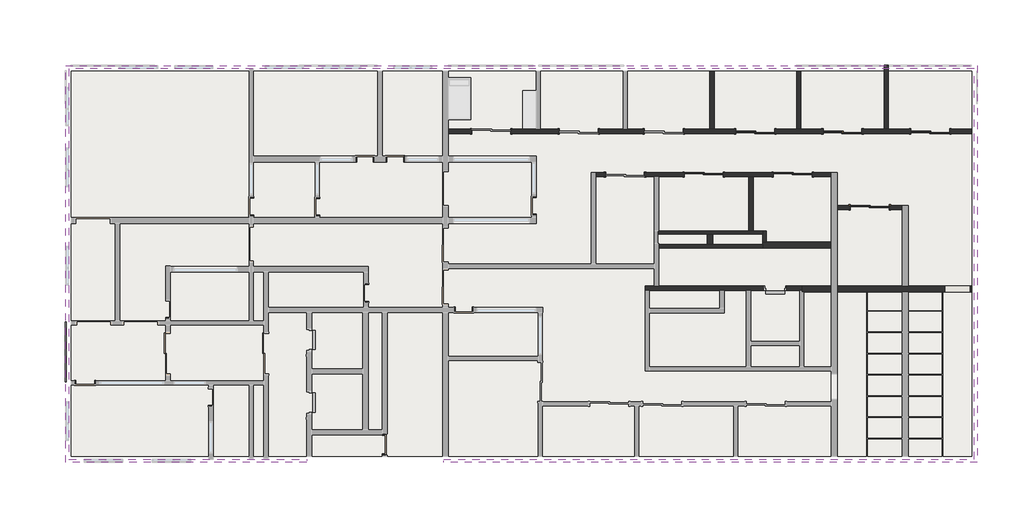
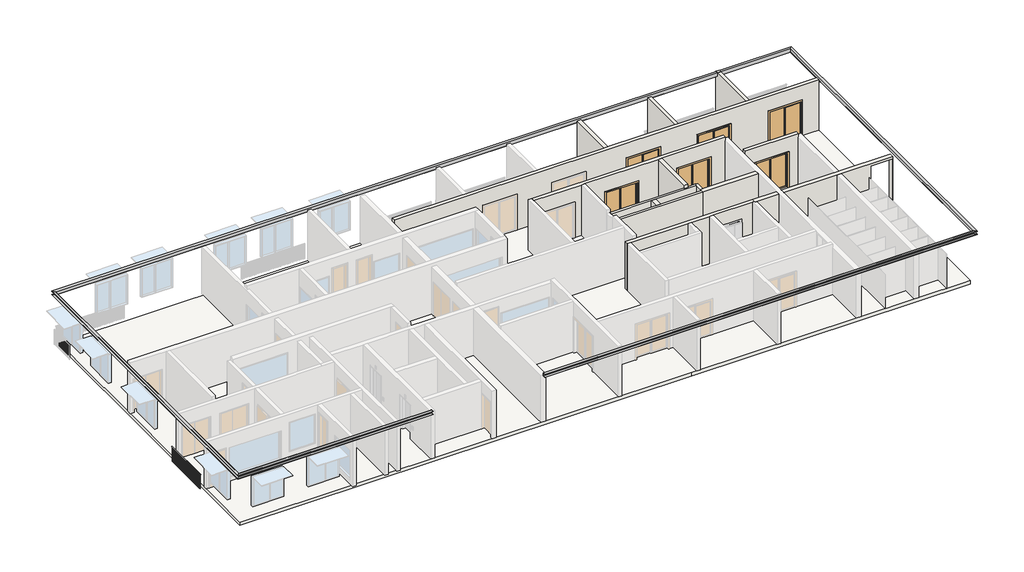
# One storey, part 3 of 5: 14 walls, 6 doors, 1 proxy, 1 railing, 1 slab.
"""IFC4 building model written with IfcOpenShell, lengths in millimetres."""

from ifc_helpers import new_model, si_unit, point, frame, frame_2d, origin, place, context, project, spatial, polyline, circle_curve, ellipse_curve, trimmed, segment, composite_curve, outline, extrude, faceted_brep, transform, mapped, element, save
from ifc_brep_helpers import plane_surface, revolved_surface, advanced_brep
from components import sliding_2_panel_1830_x_2134mm_cc41b145

model = new_model("IFC4")

# Units and contexts
model_context = context("Model", 3, world=origin())
ifc_project = project(units=[si_unit("LENGTHUNIT", "METRE", prefix="MILLI")], contexts=[model_context])

# Site, building, storey
site = spatial("IfcSite", under=ifc_project)
building = spatial("IfcBuilding", under=site)
storey = spatial("IfcBuildingStorey", under=building, Name="3階", Elevation=36100.0)

# Proxy
placement = place(None, origin())
element("IfcBuildingElementProxy", 1, Name="Slab Edge_PFC'", ObjectType="Slab Edge_PFC'", at=placement, inside=storey, context=model_context, shape_type="AdvancedBrep", body=[
    advanced_brep(
    [(45085.0, 189.0898177, 39000.0), (45085.0, 189.0898177, 39200.0), (45085.0, 18560.0, 39200.0), (45085.0, 18560.0, 39000.0), (45235.0, 39.0898177, 39000.0), (45235.0, 18710.0, 39000.0), (45235.0, 39.0898177, 39012.0), (45235.0, 18710.0, 39012.0), (45103.0, 171.0898177, 39012.0), (45103.0, 18578.0, 39012.0), (45091.0, 183.0898177, 39024.0), (45091.0, 18566.0, 39024.0), (45091.0, 183.0898177, 39176.0), (45091.0, 18566.0, 39176.0), (45103.0, 171.0898177, 39188.0), (45103.0, 18578.0, 39188.0), (45235.0, 39.0898177, 39188.0), (45235.0, 18710.0, 39188.0), (45235.0, 39.0898177, 39200.0), (45235.0, 18710.0, 39200.0), (2519.6057353, 18560.0, 39200.0), (2519.6057353, 18560.0, 39000.0), (2369.6057353, 18710.0, 39000.0), (2369.6057353, 18710.0, 39012.0), (2501.6057353, 18578.0, 39012.0), (2513.6057353, 18566.0, 39024.0), (2513.6057353, 18566.0, 39176.0), (2501.6057353, 18578.0, 39188.0), (2369.6057353, 18710.0, 39188.0), (2369.6057353, 18710.0, 39200.0), (13694.6062665, 189.0898177, 39200.0), (13694.6062665, 39.0898177, 39200.0), (13694.6062665, 39.0898177, 39188.0), (13694.6062665, 171.0898177, 39188.0), (13694.6062665, 183.0898177, 39176.0), (13694.6062665, 183.0898177, 39024.0), (13694.6062665, 171.0898177, 39012.0), (13694.6062665, 39.0898177, 39012.0), (13694.6062665, 39.0898177, 39000.0), (13694.6062665, 189.0898177, 39000.0), (2519.6057353, 189.0898177, 39000.0), (2519.6057353, 189.0898177, 39200.0), (2369.6057353, 39.0898177, 39000.0), (2369.6057353, 39.0898177, 39012.0), (2501.6057353, 171.0898177, 39012.0), (2513.6057353, 183.0898177, 39024.0), (2513.6057353, 183.0898177, 39176.0), (2501.6057353, 171.0898177, 39188.0), (2369.6057353, 39.0898177, 39188.0), (2369.6057353, 39.0898177, 39200.0), (20149.3077736, 189.0898177, 39200.0), (20149.3077736, 189.0898177, 39000.0), (20149.3077736, 39.0898177, 39000.0), (20149.3077736, 39.0898177, 39012.0), (20149.3077736, 171.0898177, 39012.0), (20149.3077736, 183.0898177, 39024.0), (20149.3077736, 183.0898177, 39176.0), (20149.3077736, 171.0898177, 39188.0), (20149.3077736, 39.0898177, 39188.0), (20149.3077736, 39.0898177, 39200.0)],
    [
        (0, 1),
        (1, 2),
        (2, 3),
        (3, 0),
        (4, 0),
        (3, 5),
        (5, 4),
        (6, 4),
        (5, 7),
        (7, 6),
        (8, 6),
        (7, 9),
        (9, 8),
        (10, 8, ellipse_curve(frame((45103.0, 171.0898177, 39024.0), z_axis=(-0.7071067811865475, -0.7071067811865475, 0.0), x_axis=(-0.7071067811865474, 0.7071067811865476, 0.0)), 16.9705627, 12.0)),
        (9, 11, ellipse_curve(frame((45103.0, 18578.0, 39024.0), z_axis=(-0.7071067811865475, 0.7071067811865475, 0.0), x_axis=(0.7071067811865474, 0.7071067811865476, 0.0)), 16.9705627, 12.0)),
        (11, 10),
        (12, 10),
        (11, 13),
        (13, 12),
        (14, 12, ellipse_curve(frame((45103.0, 171.0898177, 39176.0), z_axis=(-0.7071067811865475, -0.7071067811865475, 0.0), x_axis=(-0.7071067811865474, 0.7071067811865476, 0.0)), 16.9705627, 12.0)),
        (13, 15, ellipse_curve(frame((45103.0, 18578.0, 39176.0), z_axis=(-0.7071067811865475, 0.7071067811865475, 0.0), x_axis=(0.7071067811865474, 0.7071067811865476, 0.0)), 16.9705627, 12.0)),
        (15, 14),
        (16, 14),
        (15, 17),
        (17, 16),
        (18, 16),
        (17, 19),
        (19, 18),
        (1, 18),
        (19, 2),
        (2, 20),
        (20, 21),
        (21, 3),
        (21, 22),
        (22, 5),
        (22, 23),
        (23, 7),
        (23, 24),
        (24, 9),
        (24, 25, ellipse_curve(frame((2501.6057353, 18578.0, 39024.0), z_axis=(-0.7071067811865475, -0.7071067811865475, 0.0), x_axis=(-0.7071067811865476, 0.7071067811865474, 0.0)), 16.9705627, 12.0)),
        (25, 11),
        (25, 26),
        (26, 13),
        (26, 27, ellipse_curve(frame((2501.6057353, 18578.0, 39176.0), z_axis=(-0.7071067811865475, -0.7071067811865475, 0.0), x_axis=(-0.7071067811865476, 0.7071067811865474, 0.0)), 16.9705627, 12.0)),
        (27, 15),
        (27, 28),
        (28, 17),
        (28, 29),
        (29, 19),
        (29, 20),
        (30, 31),
        (31, 32),
        (32, 33),
        (33, 34, circle_curve(frame((13694.6062665, 171.0898177, 39176.0), z_axis=(-1.0, 0.0, 0.0), x_axis=(0.0, -1.0, 0.0)), 12.0)),
        (34, 35),
        (35, 36, circle_curve(frame((13694.6062665, 171.0898177, 39024.0), z_axis=(-1.0, 0.0, 0.0), x_axis=(0.0, -1.0, 0.0)), 12.0)),
        (36, 37),
        (37, 38),
        (38, 39),
        (39, 30),
        (40, 41),
        (41, 30),
        (39, 40),
        (42, 40),
        (38, 42),
        (43, 42),
        (37, 43),
        (44, 43),
        (36, 44),
        (45, 44, ellipse_curve(frame((2501.6057353, 171.0898177, 39024.0), z_axis=(-0.7071067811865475, 0.7071067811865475, 0.0), x_axis=(0.7071067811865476, 0.7071067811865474, 0.0)), 16.9705627, 12.0)),
        (35, 45),
        (46, 45),
        (34, 46),
        (47, 46, ellipse_curve(frame((2501.6057353, 171.0898177, 39176.0), z_axis=(-0.7071067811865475, 0.7071067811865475, 0.0), x_axis=(0.7071067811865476, 0.7071067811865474, 0.0)), 16.9705627, 12.0)),
        (33, 47),
        (48, 47),
        (32, 48),
        (49, 48),
        (31, 49),
        (41, 49),
        (50, 51),
        (51, 52),
        (52, 53),
        (53, 54),
        (54, 55, circle_curve(frame((20149.3077736, 171.0898177, 39024.0), z_axis=(1.0, 0.0, 0.0), x_axis=(0.0, -1.0, 0.0)), 12.0)),
        (55, 56),
        (56, 57, circle_curve(frame((20149.3077736, 171.0898177, 39176.0), z_axis=(1.0, 0.0, 0.0), x_axis=(0.0, -1.0, 0.0)), 12.0)),
        (57, 58),
        (58, 59),
        (59, 50),
        (50, 1),
        (0, 51),
        (4, 52),
        (6, 53),
        (8, 54),
        (10, 55),
        (12, 56),
        (14, 57),
        (16, 58),
        (18, 59),
        (20, 41),
        (40, 21),
        (42, 22),
        (43, 23),
        (44, 24),
        (45, 25),
        (46, 26),
        (47, 27),
        (48, 28),
        (49, 29),
    ],
    [
        plane_surface(frame((45085.0, 189.0898177, 39200.0), z_axis=(-1.0, 0.0, 0.0), x_axis=(0.0, 1.0, 0.0))),
        plane_surface(frame((45085.0, 189.0898177, 39000.0), z_axis=(0.0, 0.0, -1.0), x_axis=(0.0, 1.0, 0.0))),
        plane_surface(frame((45235.0, 39.0898177, 39000.0), z_axis=(1.0, 0.0, 0.0), x_axis=(0.0, 1.0, 0.0))),
        plane_surface(frame((45235.0, 39.0898177, 39012.0), z_axis=(0.0, 0.0, 1.0), x_axis=(0.0, 1.0, 0.0))),
        revolved_surface(polyline([(45115.0, 18589.999999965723, 39024.0), (45115.0, 159.0898177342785, 39024.0)]), (45103.0, 189.0898177, 39024.0), (0.0, 1.0, 0.0)),
        plane_surface(frame((45091.0, 183.0898177, 39024.0), z_axis=(1.0, 0.0, 0.0), x_axis=(0.0, 1.0, 0.0))),
        revolved_surface(polyline([(45115.0, 18589.999999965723, 39176.0), (45115.0, 159.0898177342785, 39176.0)]), (45103.0, 189.0898177, 39176.0), (0.0, 1.0, 0.0)),
        plane_surface(frame((45103.0, 171.0898177, 39188.0), z_axis=(0.0, 0.0, -1.0), x_axis=(0.0, 1.0, 0.0))),
        plane_surface(frame((45235.0, 39.0898177, 39188.0), z_axis=(1.0, 0.0, 0.0), x_axis=(0.0, 1.0, 0.0))),
        plane_surface(frame((45235.0, 39.0898177, 39200.0), z_axis=(0.0, 0.0, 1.0), x_axis=(0.0, 1.0, 0.0))),
        plane_surface(frame((45085.0, 18560.0, 39200.0), z_axis=(0.0, -1.0, 0.0), x_axis=(-1.0, 0.0, 0.0))),
        plane_surface(frame((45085.0, 18560.0, 39000.0), z_axis=(0.0, 0.0, -1.0), x_axis=(-1.0, 0.0, 0.0))),
        plane_surface(frame((45235.0, 18710.0, 39000.0), z_axis=(0.0, 1.0, 0.0), x_axis=(-1.0, 0.0, 0.0))),
        plane_surface(frame((45235.0, 18710.0, 39012.0), z_axis=(0.0, 0.0, 1.0), x_axis=(-1.0, 0.0, 0.0))),
        revolved_surface(polyline([(2489.6057353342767, 18590.0, 39024.0), (45114.99999996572, 18590.0, 39024.0)]), (45085.0, 18578.0, 39024.0), (-1.0, 0.0, 0.0)),
        plane_surface(frame((45091.0, 18566.0, 39024.0), z_axis=(0.0, 1.0, 0.0), x_axis=(-1.0, 0.0, 0.0))),
        revolved_surface(polyline([(2489.6057353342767, 18590.0, 39176.0), (45114.99999996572, 18590.0, 39176.0)]), (45085.0, 18578.0, 39176.0), (-1.0, 0.0, 0.0)),
        plane_surface(frame((45103.0, 18578.0, 39188.0), z_axis=(0.0, 0.0, -1.0), x_axis=(-1.0, 0.0, 0.0))),
        plane_surface(frame((45235.0, 18710.0, 39188.0), z_axis=(0.0, 1.0, 0.0), x_axis=(-1.0, 0.0, 0.0))),
        plane_surface(frame((45235.0, 18710.0, 39200.0), z_axis=(0.0, 0.0, 1.0), x_axis=(-1.0, 0.0, 0.0))),
        plane_surface(frame((13694.6062665, 189.0898177, 38950.0), z_axis=(1.0, 0.0, 0.0), x_axis=(0.0, 1.0, 0.0))),
        plane_surface(frame((2519.6057353, 189.0898177, 39200.0), z_axis=(0.0, 1.0, 0.0), x_axis=(1.0, 0.0, 0.0))),
        plane_surface(frame((2519.6057353, 189.0898177, 39000.0), z_axis=(0.0, 0.0, -1.0), x_axis=(1.0, 0.0, 0.0))),
        plane_surface(frame((2369.6057353, 39.0898177, 39000.0), z_axis=(0.0, -1.0, 0.0), x_axis=(1.0, 0.0, 0.0))),
        plane_surface(frame((2369.6057353, 39.0898177, 39012.0), z_axis=(0.0, 0.0, 1.0), x_axis=(1.0, 0.0, 0.0))),
        revolved_surface(polyline([(13694.6062665, 159.0898177, 39024.0), (2489.6057353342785, 159.0898177, 39024.0)]), (2519.6057353, 171.0898177, 39024.0), (1.0, 0.0, 0.0)),
        plane_surface(frame((2513.6057353, 183.0898177, 39024.0), z_axis=(0.0, -1.0, 0.0), x_axis=(1.0, 0.0, 0.0))),
        revolved_surface(polyline([(13694.6062665, 159.0898177, 39176.0), (2489.6057353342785, 159.0898177, 39176.0)]), (2519.6057353, 171.0898177, 39176.0), (1.0, 0.0, 0.0)),
        plane_surface(frame((2501.6057353, 171.0898177, 39188.0), z_axis=(0.0, 0.0, -1.0), x_axis=(1.0, 0.0, 0.0))),
        plane_surface(frame((2369.6057353, 39.0898177, 39188.0), z_axis=(0.0, -1.0, 0.0), x_axis=(1.0, 0.0, 0.0))),
        plane_surface(frame((2369.6057353, 39.0898177, 39200.0), z_axis=(0.0, 0.0, 1.0), x_axis=(1.0, 0.0, 0.0))),
        plane_surface(frame((20149.3077736, 189.0898177, 38950.0), z_axis=(-1.0, 0.0, 0.0), x_axis=(0.0, 1.0, 0.0))),
        plane_surface(frame((20149.3077736, 189.0898177, 39200.0), z_axis=(0.0, 1.0, 0.0), x_axis=(1.0, 0.0, 0.0))),
        plane_surface(frame((20149.3077736, 189.0898177, 39000.0), z_axis=(0.0, 0.0, -1.0), x_axis=(1.0, 0.0, 0.0))),
        plane_surface(frame((20149.3077736, 39.0898177, 39000.0), z_axis=(0.0, -1.0, 0.0), x_axis=(1.0, 0.0, 0.0))),
        plane_surface(frame((20149.3077736, 39.0898177, 39012.0), z_axis=(0.0, 0.0, 1.0), x_axis=(1.0, 0.0, 0.0))),
        revolved_surface(polyline([(45114.99999996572, 159.0898177, 39024.0), (20149.3077736, 159.0898177, 39024.0)]), (20149.3077736, 171.0898177, 39024.0), (1.0, 0.0, 0.0)),
        plane_surface(frame((20149.3077736, 183.0898177, 39024.0), z_axis=(0.0, -1.0, 0.0), x_axis=(1.0, 0.0, 0.0))),
        revolved_surface(polyline([(45114.99999996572, 159.0898177, 39176.0), (20149.3077736, 159.0898177, 39176.0)]), (20149.3077736, 171.0898177, 39176.0), (1.0, 0.0, 0.0)),
        plane_surface(frame((20149.3077736, 171.0898177, 39188.0), z_axis=(0.0, 0.0, -1.0), x_axis=(1.0, 0.0, 0.0))),
        plane_surface(frame((20149.3077736, 39.0898177, 39188.0), z_axis=(0.0, -1.0, 0.0), x_axis=(1.0, 0.0, 0.0))),
        plane_surface(frame((20149.3077736, 39.0898177, 39200.0), z_axis=(0.0, 0.0, 1.0), x_axis=(1.0, 0.0, 0.0))),
        plane_surface(frame((2519.6057353, 18560.0, 39200.0), z_axis=(1.0, 0.0, 0.0), x_axis=(0.0, -1.0, 0.0))),
        plane_surface(frame((2519.6057353, 18560.0, 39000.0), z_axis=(0.0, 0.0, -1.0), x_axis=(0.0, -1.0, 0.0))),
        plane_surface(frame((2369.6057353, 18710.0, 39000.0), z_axis=(-1.0, 0.0, 0.0), x_axis=(0.0, -1.0, 0.0))),
        plane_surface(frame((2369.6057353, 18710.0, 39012.0), z_axis=(0.0, 0.0, 1.0), x_axis=(0.0, -1.0, 0.0))),
        revolved_surface(polyline([(2489.6057353, 159.08981773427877, 39024.0), (2489.6057353, 18589.999999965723, 39024.0)]), (2501.6057353, 18560.0, 39024.0), (0.0, -1.0, 0.0)),
        plane_surface(frame((2513.6057353, 18566.0, 39024.0), z_axis=(-1.0, 0.0, 0.0), x_axis=(0.0, -1.0, 0.0))),
        revolved_surface(polyline([(2489.6057353, 159.08981773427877, 39176.0), (2489.6057353, 18589.999999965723, 39176.0)]), (2501.6057353, 18560.0, 39176.0), (0.0, -1.0, 0.0)),
        plane_surface(frame((2501.6057353, 18578.0, 39188.0), z_axis=(0.0, 0.0, -1.0), x_axis=(0.0, -1.0, 0.0))),
        plane_surface(frame((2369.6057353, 18710.0, 39188.0), z_axis=(-1.0, 0.0, 0.0), x_axis=(0.0, -1.0, 0.0))),
        plane_surface(frame((2369.6057353, 18710.0, 39200.0), z_axis=(0.0, 0.0, 1.0), x_axis=(0.0, -1.0, 0.0))),
    ],
    [
        (0, [[1, 2, 3, 4]]),
        (1, [[5, -4, 6, 7]]),
        (2, [[8, -7, 9, 10]]),
        (3, [[11, -10, 12, 13]]),
        (4, [[14, -13, 15, 16]]),
        (5, [[17, -16, 18, 19]]),
        (6, [[20, -19, 21, 22]]),
        (7, [[23, -22, 24, 25]]),
        (8, [[26, -25, 27, 28]]),
        (9, [[29, -28, 30, -2]]),
        (10, [[-3, 31, 32, 33]]),
        (11, [[-6, -33, 34, 35]]),
        (12, [[-9, -35, 36, 37]]),
        (13, [[-12, -37, 38, 39]]),
        (14, [[-15, -39, 40, 41]]),
        (15, [[-18, -41, 42, 43]]),
        (16, [[-21, -43, 44, 45]]),
        (17, [[-24, -45, 46, 47]]),
        (18, [[-27, -47, 48, 49]]),
        (19, [[-30, -49, 50, -31]]),
        (20, [[51, 52, 53, 54, 55, 56, 57, 58, 59, 60]]),
        (21, [[61, 62, -60, 63]]),
        (22, [[64, -63, -59, 65]]),
        (23, [[66, -65, -58, 67]]),
        (24, [[68, -67, -57, 69]]),
        (25, [[70, -69, -56, 71]]),
        (26, [[72, -71, -55, 73]]),
        (27, [[74, -73, -54, 75]]),
        (28, [[76, -75, -53, 77]]),
        (29, [[78, -77, -52, 79]]),
        (30, [[80, -79, -51, -62]]),
        (31, [[81, 82, 83, 84, 85, 86, 87, 88, 89, 90]]),
        (32, [[-81, 91, -1, 92]]),
        (33, [[-82, -92, -5, 93]]),
        (34, [[-83, -93, -8, 94]]),
        (35, [[-84, -94, -11, 95]]),
        (36, [[-85, -95, -14, 96]]),
        (37, [[-86, -96, -17, 97]]),
        (38, [[-87, -97, -20, 98]]),
        (39, [[-88, -98, -23, 99]]),
        (40, [[-89, -99, -26, 100]]),
        (41, [[-90, -100, -29, -91]]),
        (42, [[-32, 101, -61, 102]]),
        (43, [[-34, -102, -64, 103]]),
        (44, [[-36, -103, -66, 104]]),
        (45, [[-38, -104, -68, 105]]),
        (46, [[-40, -105, -70, 106]]),
        (47, [[-42, -106, -72, 107]]),
        (48, [[-44, -107, -74, 108]]),
        (49, [[-46, -108, -76, 109]]),
        (50, [[-48, -109, -78, 110]]),
        (51, [[-50, -110, -80, -101]]),
    ],
),
])

# Doors
sliding_2_panel_1830_x_2134mm_shape = sliding_2_panel_1830_x_2134mm_cc41b145(model_context)
element("IfcDoor", 2, ObjectType="Sliding-2 Panel : 1830 x 2134mm", at=placement, inside=storey, context=model_context, shape_type="MappedRepresentation", body=[
    mapped(sliding_2_panel_1830_x_2134mm_shape, transform((34803.2204541, 15742.7680774, 36100.0), x_axis=(-1.0, 0.0, 0.0), y_axis=(0.0, -1.0, 0.0), z_axis=(0.0, 0.0, 1.0))),
])
element("IfcDoor", 3, ObjectType="Sliding-2 Panel : 1830 x 2134mm", at=placement, inside=storey, context=model_context, shape_type="MappedRepresentation", body=[
    mapped(sliding_2_panel_1830_x_2134mm_shape, transform((38897.4591058, 15742.7680774, 36100.0), x_axis=(-1.0, 0.0, 0.0), y_axis=(0.0, -1.0, 0.0), z_axis=(0.0, 0.0, 1.0))),
])
element("IfcDoor", 4, ObjectType="Sliding-2 Panel : 1830 x 2134mm", at=placement, inside=storey, context=model_context, shape_type="MappedRepresentation", body=[
    mapped(sliding_2_panel_1830_x_2134mm_shape, transform((43026.6790155, 15742.7680774, 36100.0), x_axis=(-1.0, 0.0, 0.0), y_axis=(0.0, -1.0, 0.0), z_axis=(0.0, 0.0, 1.0))),
])
element("IfcDoor", 5, ObjectType="Sliding-2 Panel : 1830 x 2134mm", at=placement, inside=storey, context=model_context, shape_type="MappedRepresentation", body=[
    mapped(sliding_2_panel_1830_x_2134mm_shape, transform((36557.1137391, 13456.5180774, 36100.0), x_axis=(1.0, 0.0, 0.0), y_axis=(0.0, 1.0, 0.0), z_axis=(0.0, 0.0, 1.0))),
])
element("IfcDoor", 6, ObjectType="Sliding-2 Panel : 1830 x 2134mm", at=placement, inside=storey, context=model_context, shape_type="MappedRepresentation", body=[
    mapped(sliding_2_panel_1830_x_2134mm_shape, transform((32376.7619997, 13456.5180774, 36100.0), x_axis=(1.0, 0.0, 0.0), y_axis=(0.0, 1.0, 0.0), z_axis=(0.0, 0.0, 1.0))),
])
element("IfcDoor", 7, ObjectType="Sliding-2 Panel : 1830 x 2134mm", at=placement, inside=storey, context=model_context, shape_type="MappedRepresentation", body=[
    mapped(sliding_2_panel_1830_x_2134mm_shape, transform((40179.9654784, 11907.0898177, 36100.0), x_axis=(1.0, 0.0, 0.0), y_axis=(0.0, 1.0, 0.0), z_axis=(0.0, 0.0, 1.0))),
])

# Railing
element("IfcRailing", 8, ObjectType="900mm", at=placement, inside=storey, context=model_context, shape_type="SweptSolid", body=[
    extrude(outline(composite_curve([segment(trimmed(circle_curve(frame_2d((36980.0, 2379.6057353)), 20.0), [point((36980.0, 2399.6057353))], [point((36980.0, 2359.6057353))], False, "CARTESIAN"), True, "CONTINUOUS"), segment(trimmed(circle_curve(frame_2d((36980.0, 2379.6057353)), 20.0), [point((36980.0, 2359.6057353))], [point((36980.0, 2399.6057353))], False, "CARTESIAN"), True, "CONTINUOUS")], self_intersect=False)), frame((0.0, 3816.2680774, 0.0), z_axis=(0.0, 1.0, 0.0), x_axis=(0.0, 0.0, 1.0)), (0.0, 0.0, 1.0), 2834.048622),
    extrude(outline(polyline([(2384.6057353, 6611.2680774), (2374.6057353, 6611.2680774), (2374.6057353, 6621.2680774), (2384.6057353, 6621.2680774), (2384.6057353, 6611.2680774)])), frame((0.0, 0.0, 36100.0), z_axis=(0.0, 0.0, 1.0), x_axis=(1.0, 0.0, 0.0)), (0.0, 0.0, 1.0), 860.0),
    extrude(outline(polyline([(2384.6057353, 6511.2680774), (2374.6057353, 6511.2680774), (2374.6057353, 6521.2680774), (2384.6057353, 6521.2680774), (2384.6057353, 6511.2680774)])), frame((0.0, 0.0, 36100.0), z_axis=(0.0, 0.0, 1.0), x_axis=(1.0, 0.0, 0.0)), (0.0, 0.0, 1.0), 860.0),
    extrude(outline(polyline([(2384.6057353, 6411.2680774), (2374.6057353, 6411.2680774), (2374.6057353, 6421.2680774), (2384.6057353, 6421.2680774), (2384.6057353, 6411.2680774)])), frame((0.0, 0.0, 36100.0), z_axis=(0.0, 0.0, 1.0), x_axis=(1.0, 0.0, 0.0)), (0.0, 0.0, 1.0), 860.0),
    extrude(outline(polyline([(2384.6057353, 6311.2680774), (2374.6057353, 6311.2680774), (2374.6057353, 6321.2680774), (2384.6057353, 6321.2680774), (2384.6057353, 6311.2680774)])), frame((0.0, 0.0, 36100.0), z_axis=(0.0, 0.0, 1.0), x_axis=(1.0, 0.0, 0.0)), (0.0, 0.0, 1.0), 860.0),
    extrude(outline(polyline([(2384.6057353, 6211.2680774), (2374.6057353, 6211.2680774), (2374.6057353, 6221.2680774), (2384.6057353, 6221.2680774), (2384.6057353, 6211.2680774)])), frame((0.0, 0.0, 36100.0), z_axis=(0.0, 0.0, 1.0), x_axis=(1.0, 0.0, 0.0)), (0.0, 0.0, 1.0), 860.0),
    extrude(outline(polyline([(2384.6057353, 6111.2680774), (2374.6057353, 6111.2680774), (2374.6057353, 6121.2680774), (2384.6057353, 6121.2680774), (2384.6057353, 6111.2680774)])), frame((0.0, 0.0, 36100.0), z_axis=(0.0, 0.0, 1.0), x_axis=(1.0, 0.0, 0.0)), (0.0, 0.0, 1.0), 860.0),
    extrude(outline(polyline([(2384.6057353, 6011.2680774), (2374.6057353, 6011.2680774), (2374.6057353, 6021.2680774), (2384.6057353, 6021.2680774), (2384.6057353, 6011.2680774)])), frame((0.0, 0.0, 36100.0), z_axis=(0.0, 0.0, 1.0), x_axis=(1.0, 0.0, 0.0)), (0.0, 0.0, 1.0), 860.0),
    extrude(outline(polyline([(2384.6057353, 5911.2680774), (2374.6057353, 5911.2680774), (2374.6057353, 5921.2680774), (2384.6057353, 5921.2680774), (2384.6057353, 5911.2680774)])), frame((0.0, 0.0, 36100.0), z_axis=(0.0, 0.0, 1.0), x_axis=(1.0, 0.0, 0.0)), (0.0, 0.0, 1.0), 860.0),
    extrude(outline(polyline([(2384.6057353, 5811.2680774), (2374.6057353, 5811.2680774), (2374.6057353, 5821.2680774), (2384.6057353, 5821.2680774), (2384.6057353, 5811.2680774)])), frame((0.0, 0.0, 36100.0), z_axis=(0.0, 0.0, 1.0), x_axis=(1.0, 0.0, 0.0)), (0.0, 0.0, 1.0), 860.0),
    extrude(outline(polyline([(2384.6057353, 5711.2680774), (2374.6057353, 5711.2680774), (2374.6057353, 5721.2680774), (2384.6057353, 5721.2680774), (2384.6057353, 5711.2680774)])), frame((0.0, 0.0, 36100.0), z_axis=(0.0, 0.0, 1.0), x_axis=(1.0, 0.0, 0.0)), (0.0, 0.0, 1.0), 860.0),
    extrude(outline(polyline([(2384.6057353, 5611.2680774), (2374.6057353, 5611.2680774), (2374.6057353, 5621.2680774), (2384.6057353, 5621.2680774), (2384.6057353, 5611.2680774)])), frame((0.0, 0.0, 36100.0), z_axis=(0.0, 0.0, 1.0), x_axis=(1.0, 0.0, 0.0)), (0.0, 0.0, 1.0), 860.0),
    extrude(outline(polyline([(2384.6057353, 5511.2680774), (2374.6057353, 5511.2680774), (2374.6057353, 5521.2680774), (2384.6057353, 5521.2680774), (2384.6057353, 5511.2680774)])), frame((0.0, 0.0, 36100.0), z_axis=(0.0, 0.0, 1.0), x_axis=(1.0, 0.0, 0.0)), (0.0, 0.0, 1.0), 860.0),
    extrude(outline(polyline([(2384.6057353, 5411.2680774), (2374.6057353, 5411.2680774), (2374.6057353, 5421.2680774), (2384.6057353, 5421.2680774), (2384.6057353, 5411.2680774)])), frame((0.0, 0.0, 36100.0), z_axis=(0.0, 0.0, 1.0), x_axis=(1.0, 0.0, 0.0)), (0.0, 0.0, 1.0), 860.0),
    extrude(outline(polyline([(2384.6057353, 5311.2680774), (2374.6057353, 5311.2680774), (2374.6057353, 5321.2680774), (2384.6057353, 5321.2680774), (2384.6057353, 5311.2680774)])), frame((0.0, 0.0, 36100.0), z_axis=(0.0, 0.0, 1.0), x_axis=(1.0, 0.0, 0.0)), (0.0, 0.0, 1.0), 860.0),
    extrude(outline(polyline([(2384.6057353, 5211.2680774), (2374.6057353, 5211.2680774), (2374.6057353, 5221.2680774), (2384.6057353, 5221.2680774), (2384.6057353, 5211.2680774)])), frame((0.0, 0.0, 36100.0), z_axis=(0.0, 0.0, 1.0), x_axis=(1.0, 0.0, 0.0)), (0.0, 0.0, 1.0), 860.0),
    extrude(outline(polyline([(2384.6057353, 5111.2680774), (2374.6057353, 5111.2680774), (2374.6057353, 5121.2680774), (2384.6057353, 5121.2680774), (2384.6057353, 5111.2680774)])), frame((0.0, 0.0, 36100.0), z_axis=(0.0, 0.0, 1.0), x_axis=(1.0, 0.0, 0.0)), (0.0, 0.0, 1.0), 860.0),
    extrude(outline(polyline([(2384.6057353, 5011.2680774), (2374.6057353, 5011.2680774), (2374.6057353, 5021.2680774), (2384.6057353, 5021.2680774), (2384.6057353, 5011.2680774)])), frame((0.0, 0.0, 36100.0), z_axis=(0.0, 0.0, 1.0), x_axis=(1.0, 0.0, 0.0)), (0.0, 0.0, 1.0), 860.0),
    extrude(outline(polyline([(2384.6057353, 4911.2680774), (2374.6057353, 4911.2680774), (2374.6057353, 4921.2680774), (2384.6057353, 4921.2680774), (2384.6057353, 4911.2680774)])), frame((0.0, 0.0, 36100.0), z_axis=(0.0, 0.0, 1.0), x_axis=(1.0, 0.0, 0.0)), (0.0, 0.0, 1.0), 860.0),
    extrude(outline(polyline([(2384.6057353, 4811.2680774), (2374.6057353, 4811.2680774), (2374.6057353, 4821.2680774), (2384.6057353, 4821.2680774), (2384.6057353, 4811.2680774)])), frame((0.0, 0.0, 36100.0), z_axis=(0.0, 0.0, 1.0), x_axis=(1.0, 0.0, 0.0)), (0.0, 0.0, 1.0), 860.0),
    extrude(outline(polyline([(2384.6057353, 4711.2680774), (2374.6057353, 4711.2680774), (2374.6057353, 4721.2680774), (2384.6057353, 4721.2680774), (2384.6057353, 4711.2680774)])), frame((0.0, 0.0, 36100.0), z_axis=(0.0, 0.0, 1.0), x_axis=(1.0, 0.0, 0.0)), (0.0, 0.0, 1.0), 860.0),
    extrude(outline(polyline([(2384.6057353, 4611.2680774), (2374.6057353, 4611.2680774), (2374.6057353, 4621.2680774), (2384.6057353, 4621.2680774), (2384.6057353, 4611.2680774)])), frame((0.0, 0.0, 36100.0), z_axis=(0.0, 0.0, 1.0), x_axis=(1.0, 0.0, 0.0)), (0.0, 0.0, 1.0), 860.0),
    extrude(outline(polyline([(2384.6057353, 4511.2680774), (2374.6057353, 4511.2680774), (2374.6057353, 4521.2680774), (2384.6057353, 4521.2680774), (2384.6057353, 4511.2680774)])), frame((0.0, 0.0, 36100.0), z_axis=(0.0, 0.0, 1.0), x_axis=(1.0, 0.0, 0.0)), (0.0, 0.0, 1.0), 860.0),
    extrude(outline(polyline([(2384.6057353, 4411.2680774), (2374.6057353, 4411.2680774), (2374.6057353, 4421.2680774), (2384.6057353, 4421.2680774), (2384.6057353, 4411.2680774)])), frame((0.0, 0.0, 36100.0), z_axis=(0.0, 0.0, 1.0), x_axis=(1.0, 0.0, 0.0)), (0.0, 0.0, 1.0), 860.0),
    extrude(outline(polyline([(2384.6057353, 4311.2680774), (2374.6057353, 4311.2680774), (2374.6057353, 4321.2680774), (2384.6057353, 4321.2680774), (2384.6057353, 4311.2680774)])), frame((0.0, 0.0, 36100.0), z_axis=(0.0, 0.0, 1.0), x_axis=(1.0, 0.0, 0.0)), (0.0, 0.0, 1.0), 860.0),
    extrude(outline(polyline([(2384.6057353, 4211.2680774), (2374.6057353, 4211.2680774), (2374.6057353, 4221.2680774), (2384.6057353, 4221.2680774), (2384.6057353, 4211.2680774)])), frame((0.0, 0.0, 36100.0), z_axis=(0.0, 0.0, 1.0), x_axis=(1.0, 0.0, 0.0)), (0.0, 0.0, 1.0), 860.0),
    extrude(outline(polyline([(2384.6057353, 4111.2680774), (2374.6057353, 4111.2680774), (2374.6057353, 4121.2680774), (2384.6057353, 4121.2680774), (2384.6057353, 4111.2680774)])), frame((0.0, 0.0, 36100.0), z_axis=(0.0, 0.0, 1.0), x_axis=(1.0, 0.0, 0.0)), (0.0, 0.0, 1.0), 860.0),
    extrude(outline(polyline([(2384.6057353, 4011.2680774), (2374.6057353, 4011.2680774), (2374.6057353, 4021.2680774), (2384.6057353, 4021.2680774), (2384.6057353, 4011.2680774)])), frame((0.0, 0.0, 36100.0), z_axis=(0.0, 0.0, 1.0), x_axis=(1.0, 0.0, 0.0)), (0.0, 0.0, 1.0), 860.0),
    extrude(outline(polyline([(2384.6057353, 3911.2680774), (2374.6057353, 3911.2680774), (2374.6057353, 3921.2680774), (2384.6057353, 3921.2680774), (2384.6057353, 3911.2680774)])), frame((0.0, 0.0, 36100.0), z_axis=(0.0, 0.0, 1.0), x_axis=(1.0, 0.0, 0.0)), (0.0, 0.0, 1.0), 860.0),
    extrude(outline(polyline([(2384.6057353, 6635.3166994), (2374.6057353, 6635.3166994), (2374.6057353, 6645.3166994), (2384.6057353, 6645.3166994), (2384.6057353, 6635.3166994)])), frame((0.0, 0.0, 36100.0), z_axis=(0.0, 0.0, 1.0), x_axis=(1.0, 0.0, 0.0)), (0.0, 0.0, 1.0), 860.0),
    extrude(outline(polyline([(2384.6057353, 3821.2680774), (2374.6057353, 3821.2680774), (2374.6057353, 3831.2680774), (2384.6057353, 3831.2680774), (2384.6057353, 3821.2680774)])), frame((0.0, 0.0, 36100.0), z_axis=(0.0, 0.0, 1.0), x_axis=(1.0, 0.0, 0.0)), (0.0, 0.0, 1.0), 860.0),
])

# Slab
element("IfcSlab", 9, ObjectType="Concept Floor_200mm", at=placement, inside=storey, context=model_context, shape_type="SweptSolid", body=[
    extrude(outline(polyline([(28838.2012748, 309.0898177), (2639.6057353, 309.0898177), (2639.6057353, 18440.0), (44965.0, 18440.0), (44965.0, 309.0898177), (28838.2012748, 309.0898177)])), frame((0.0, 0.0, 35900.0), z_axis=(0.0, 0.0, 1.0), x_axis=(1.0, 0.0, 0.0)), (0.0, 0.0, 1.0), 200.0),
])

# Walls
element("IfcWall", 10, ObjectType="Brickwork_Double_270mm", at=placement, inside=storey, context=model_context, shape_type="SweptSolid", body=[
    extrude(outline(polyline([(32799.8807277, 10780.0213727), (32799.8807277, 10280.005792), (32529.8807277, 10280.005792), (32529.8807277, 10780.0213727), (32799.8807277, 10780.0213727)])), frame((0.0, 0.0, 36100.0), z_axis=(0.0, 0.0, 1.0), x_axis=(1.0, 0.0, 0.0)), (0.0, 0.0, 1.0), 2900.0),
])
element("IfcWall", 11, ObjectType="Brickwork_Double_270mm", at=placement, inside=storey, context=model_context, shape_type="Brep", body=[
    faceted_brep([(35151.7619997, 10130.005792, 36100.0), (38377.4654784, 10130.005792, 36100.0), (38377.4654784, 10130.005792, 39000.0), (35151.7619997, 10130.005792, 39000.0), (35151.7619997, 10400.005792, 36100.0), (35151.7619997, 10400.005792, 39000.0), (35301.7619997, 10400.005792, 39000.0), (38377.4654784, 10400.005792, 39000.0), (38377.4654784, 10400.005792, 36100.0), (35301.7619997, 10400.005792, 36100.0), (35151.7619997, 10280.005792, 36100.0), (35151.7619997, 10280.005792, 39000.0)], [[[0, 1, 2, 3]], [[4, 5, 6, 7, 8, 9]], [[1, 0, 10, 4, 9, 8]], [[0, 3, 11, 5, 4, 10]], [[3, 2, 7, 6, 5, 11]], [[2, 1, 8, 7]]]),
])
element("IfcWall", 12, ObjectType="Brickwork_Double_270mm", at=placement, inside=storey, context=model_context, shape_type="Brep", body=[
    faceted_brep([(36982.1585166, 8060.005792, 39000.0), (36982.1585166, 8060.005792, 36100.0), (37082.1585166, 8060.005792, 36100.0), (38377.4654784, 8060.005792, 36100.0), (38377.4654784, 8060.005792, 39000.0), (37082.1585166, 8060.005792, 39000.0), (36982.1585166, 8330.005792, 36100.0), (36982.1585166, 8330.005792, 39000.0), (38377.4654784, 8330.005792, 39000.0), (38377.4654784, 8330.005792, 36100.0), (36982.1585166, 8130.005792, 36100.0), (36982.1585166, 8130.005792, 39000.0)], [[[0, 1, 2, 3, 4, 5]], [[6, 7, 8, 9]], [[1, 10, 6, 9, 3, 2]], [[1, 0, 11, 7, 6, 10]], [[7, 11, 0, 5, 4, 8]], [[4, 3, 9, 8]]]),
    faceted_brep([(44965.0, 8060.005792, 36100.0), (44965.0, 8060.005792, 39000.0), (41982.4654784, 8060.005792, 39000.0), (41712.4654784, 8060.005792, 39000.0), (38647.4654784, 8060.005792, 39000.0), (38647.4654784, 8060.005792, 36100.0), (40038.4654784, 8060.005792, 36100.0), (40056.4654784, 8060.005792, 36100.0), (41712.4654784, 8060.005792, 36100.0), (41982.4654784, 8060.005792, 36100.0), (43588.4654784, 8060.005792, 36100.0), (43606.4654784, 8060.005792, 36100.0), (43716.6195952, 8060.005792, 36150.0), (43716.6195952, 8060.005792, 38850.0), (44916.6195952, 8060.005792, 38850.0), (44916.6195952, 8060.005792, 36150.0), (44965.0, 8330.005792, 39000.0), (44965.0, 8330.005792, 36100.0), (41982.4654784, 8330.005792, 36100.0), (41712.4654784, 8330.005792, 36100.0), (38647.4654784, 8330.005792, 36100.0), (38647.4654784, 8330.005792, 39000.0), (41712.4654784, 8330.005792, 39000.0), (41982.4654784, 8330.005792, 39000.0), (43716.6195952, 8330.005792, 38850.0), (43716.6195952, 8330.005792, 36150.0), (44916.6195952, 8330.005792, 36150.0), (44916.6195952, 8330.005792, 38850.0)], [[[0, 1, 2, 3, 4, 5, 6, 7, 8, 9, 10, 11], [12, 13, 14, 15]], [[16, 17, 18, 19, 20, 21, 22, 23], [24, 25, 26, 27]], [[17, 0, 11, 10, 9, 8, 7, 6, 5, 20, 19, 18]], [[1, 16, 23, 22, 21, 4, 3, 2]], [[5, 4, 21, 20]], [[1, 0, 17, 16]], [[12, 25, 24, 13]], [[25, 12, 15, 26]], [[26, 15, 14, 27]], [[13, 24, 27, 14]]]),
])
element("IfcWall", 13, ObjectType="C1 - Concrete Type 2", at=placement, inside=storey, context=model_context, shape_type="Brep", body=[
    faceted_brep([(36982.1585166, 8130.005792, 36100.0), (36982.1585166, 8130.005792, 39000.0), (36882.1585166, 8130.005792, 39000.0), (34582.1585166, 8130.005792, 39000.0), (34382.1585166, 8130.005792, 39000.0), (33332.1585166, 8130.005792, 39000.0), (33132.1585166, 8130.005792, 39000.0), (29822.1585166, 8130.005792, 39000.0), (29622.1585166, 8130.005792, 39000.0), (29622.1585166, 8130.005792, 36100.0), (29822.1585166, 8130.005792, 36100.0), (33132.1585166, 8130.005792, 36100.0), (33332.1585166, 8130.005792, 36100.0), (34382.1585166, 8130.005792, 36100.0), (34582.1585166, 8130.005792, 36100.0), (35182.1585166, 8130.005792, 36100.0), (35182.1585166, 8130.005792, 38200.0), (36282.1585166, 8130.005792, 38200.0), (36282.1585166, 8130.005792, 36100.0), (36882.1585166, 8130.005792, 36100.0), (36982.1585166, 8330.005792, 39000.0), (36982.1585166, 8330.005792, 36100.0), (36282.1585166, 8330.005792, 36100.0), (36282.1585166, 8330.005792, 38200.0), (35182.1585166, 8330.005792, 38200.0), (35182.1585166, 8330.005792, 36100.0), (30246.7619997, 8330.005792, 36100.0), (30046.7619997, 8330.005792, 36100.0), (29622.1585166, 8330.005792, 36100.0), (29622.1585166, 8330.005792, 39000.0), (35052.1585166, 8330.005792, 36800.0), (35052.1585166, 8330.005792, 37000.0), (34952.1585166, 8330.005792, 37000.0), (34952.1585166, 8330.005792, 36800.0), (35782.1585166, 8330.005792, 38300.0), (35782.1585166, 8330.005792, 38500.0), (35682.1585166, 8330.005792, 38500.0), (35682.1585166, 8330.005792, 38300.0), (35052.1585166, 8310.005792, 36800.0), (34952.1585166, 8310.005792, 36800.0), (34952.1585166, 8310.005792, 37000.0), (35052.1585166, 8310.005792, 37000.0), (35782.1585166, 8310.005792, 38300.0), (35682.1585166, 8310.005792, 38300.0), (35682.1585166, 8310.005792, 38500.0), (35782.1585166, 8310.005792, 38500.0)], [[[0, 1, 2, 3, 4, 5, 6, 7, 8, 9, 10, 11, 12, 13, 14, 15, 16, 17, 18, 19]], [[20, 21, 22, 23, 24, 25, 26, 27, 28, 29], [30, 31, 32, 33], [34, 35, 36, 37]], [[9, 28, 27, 26, 25, 15, 14, 13, 12, 11, 10]], [[21, 0, 19, 18, 22]], [[1, 0, 21, 20]], [[8, 7, 6, 5, 4, 3, 2, 1, 20, 29]], [[9, 8, 29, 28]], [[24, 16, 15, 25]], [[17, 23, 22, 18]], [[16, 24, 23, 17]], [[38, 39, 40, 41]], [[38, 41, 31, 30]], [[41, 40, 32, 31]], [[40, 39, 33, 32]], [[39, 38, 30, 33]], [[42, 43, 44, 45]], [[42, 45, 35, 34]], [[45, 44, 36, 35]], [[44, 43, 37, 36]], [[43, 42, 34, 37]]]),
])
element("IfcWall", 14, ObjectType="C1 - Concrete Type 2", at=placement, inside=storey, context=model_context, shape_type="Brep", body=[
    faceted_brep([(39812.4591058, 15515.7680774, 36100.0), (42111.6790155, 15515.7680774, 36100.0), (42111.6790155, 15515.7680774, 38234.0), (43941.6790155, 15515.7680774, 38234.0), (43941.6790155, 15515.7680774, 36100.0), (44965.0, 15515.7680774, 36100.0), (44965.0, 15515.7680774, 39200.0), (20364.6062665, 15515.7680774, 39200.0), (20364.6062665, 15515.7680774, 36100.0), (21473.4034243, 15515.7680774, 36100.0), (21473.4034243, 15515.7680774, 38234.0), (23303.4034243, 15515.7680774, 38234.0), (23303.4034243, 15515.7680774, 36100.0), (25573.4034243, 15515.7680774, 36100.0), (25573.4034243, 15515.7680774, 38234.0), (27403.4034243, 15515.7680774, 38234.0), (27403.4034243, 15515.7680774, 36100.0), (29573.2012748, 15515.7680774, 36100.0), (29573.2012748, 15515.7680774, 38234.0), (31403.2012748, 15515.7680774, 38234.0), (31403.2012748, 15515.7680774, 36100.0), (33888.2204541, 15515.7680774, 36100.0), (33888.2204541, 15515.7680774, 38234.0), (35718.2204541, 15515.7680774, 38234.0), (35718.2204541, 15515.7680774, 36100.0), (37982.4591058, 15515.7680774, 36100.0), (37982.4591058, 15515.7680774, 38234.0), (39812.4591058, 15515.7680774, 38234.0), (42111.6790155, 15715.7680774, 38234.0), (42111.6790155, 15715.7680774, 36100.0), (41053.358031, 15715.7680774, 36100.0), (40853.358031, 15715.7680774, 36100.0), (39812.4591058, 15715.7680774, 36100.0), (39812.4591058, 15715.7680774, 38234.0), (37982.4591058, 15715.7680774, 38234.0), (37982.4591058, 15715.7680774, 36100.0), (36941.5601806, 15715.7680774, 36100.0), (36741.5601806, 15715.7680774, 36100.0), (35718.2204541, 15715.7680774, 36100.0), (35718.2204541, 15715.7680774, 38234.0), (33888.2204541, 15715.7680774, 38234.0), (33888.2204541, 15715.7680774, 36100.0), (32864.8807277, 15715.7680774, 36100.0), (32664.8807277, 15715.7680774, 36100.0), (31403.2012748, 15715.7680774, 36100.0), (31403.2012748, 15715.7680774, 38234.0), (29573.2012748, 15715.7680774, 38234.0), (29573.2012748, 15715.7680774, 36100.0), (28788.2012748, 15715.7680774, 36100.0), (28588.2012748, 15715.7680774, 36100.0), (27403.4034243, 15715.7680774, 36100.0), (27403.4034243, 15715.7680774, 38234.0), (25573.4034243, 15715.7680774, 38234.0), (25573.4034243, 15715.7680774, 36100.0), (24688.4034243, 15715.7680774, 36100.0), (24488.4034243, 15715.7680774, 36100.0), (23303.4034243, 15715.7680774, 36100.0), (23303.4034243, 15715.7680774, 38234.0), (21473.4034243, 15715.7680774, 38234.0), (21473.4034243, 15715.7680774, 36100.0), (20364.6062665, 15715.7680774, 36100.0), (20364.6062665, 15715.7680774, 39200.0), (24488.4034243, 15715.7680774, 39200.0), (24688.4034243, 15715.7680774, 39200.0), (28588.2012748, 15715.7680774, 39200.0), (28788.2012748, 15715.7680774, 39200.0), (32664.8807277, 15715.7680774, 39200.0), (32864.8807277, 15715.7680774, 39200.0), (36741.5601806, 15715.7680774, 39200.0), (36941.5601806, 15715.7680774, 39200.0), (40853.358031, 15715.7680774, 39200.0), (41053.358031, 15715.7680774, 39200.0), (44965.0, 15715.7680774, 39200.0), (44965.0, 15715.7680774, 36100.0), (43941.6790155, 15715.7680774, 36100.0), (43941.6790155, 15715.7680774, 38234.0)], [[[0, 1, 2, 3, 4, 5, 6, 7, 8, 9, 10, 11, 12, 13, 14, 15, 16, 17, 18, 19, 20, 21, 22, 23, 24, 25, 26, 27]], [[28, 29, 30, 31, 32, 33, 34, 35, 36, 37, 38, 39, 40, 41, 42, 43, 44, 45, 46, 47, 48, 49, 50, 51, 52, 53, 54, 55, 56, 57, 58, 59, 60, 61, 62, 63, 64, 65, 66, 67, 68, 69, 70, 71, 72, 73, 74, 75]], [[9, 8, 60, 59]], [[56, 55, 54, 53, 13, 12]], [[50, 49, 48, 47, 17, 16]], [[44, 43, 42, 41, 21, 20]], [[38, 37, 36, 35, 25, 24]], [[74, 73, 5, 4]], [[32, 31, 30, 29, 1, 0]], [[7, 6, 72, 71, 70, 69, 68, 67, 66, 65, 64, 63, 62, 61]], [[6, 5, 73, 72]], [[8, 7, 61, 60]], [[59, 58, 10, 9]], [[57, 56, 12, 11]], [[58, 57, 11, 10]], [[16, 15, 51, 50]], [[14, 13, 53, 52]], [[15, 14, 52, 51]], [[20, 19, 45, 44]], [[18, 17, 47, 46]], [[19, 18, 46, 45]], [[24, 23, 39, 38]], [[22, 21, 41, 40]], [[23, 22, 40, 39]], [[0, 27, 33, 32]], [[26, 25, 35, 34]], [[27, 26, 34, 33]], [[4, 3, 75, 74]], [[2, 1, 29, 28]], [[3, 2, 28, 75]]]),
])
element("IfcWall", 15, ObjectType="C1 - Concrete Type 2", at=placement, inside=storey, context=model_context, shape_type="SweptSolid", body=[
    extrude(outline(polyline([(32664.8807277, 15715.7680774), (32664.8807277, 18440.0), (32864.8807277, 18440.0), (32864.8807277, 15715.7680774), (32664.8807277, 15715.7680774)])), frame((0.0, 0.0, 36100.0), z_axis=(0.0, 0.0, 1.0), x_axis=(1.0, 0.0, 0.0)), (0.0, 0.0, 1.0), 3100.0),
])
element("IfcWall", 16, ObjectType="C1 - Concrete Type 2", at=placement, inside=storey, context=model_context, shape_type="SweptSolid", body=[
    extrude(outline(polyline([(36741.5601806, 15715.7680774), (36741.5601806, 18440.0), (36941.5601806, 18440.0), (36941.5601806, 15715.7680774), (36741.5601806, 15715.7680774)])), frame((0.0, 0.0, 36100.0), z_axis=(0.0, 0.0, 1.0), x_axis=(1.0, 0.0, 0.0)), (0.0, 0.0, 1.0), 3100.0),
])
element("IfcWall", 17, ObjectType="C1 - Concrete Type 2", at=placement, inside=storey, context=model_context, shape_type="SweptSolid", body=[
    extrude(outline(polyline([(40853.358031, 15715.7680774), (40853.358031, 18720.0), (41053.358031, 18720.0), (41053.358031, 15715.7680774), (40853.358031, 15715.7680774)])), frame((0.0, 0.0, 36100.0), z_axis=(0.0, 0.0, 1.0), x_axis=(1.0, 0.0, 0.0)), (0.0, 0.0, 1.0), 3100.0),
])
element("IfcWall", 18, ObjectType="C1 - Concrete Type 2", at=placement, inside=storey, context=model_context, shape_type="Brep", body=[
    faceted_brep([(27288.2012748, 13483.5180774, 36100.0), (27754.9816372, 13483.5180774, 36100.0), (27754.9816372, 13483.5180774, 38234.0), (29584.9816372, 13483.5180774, 38234.0), (29584.9816372, 13483.5180774, 36100.0), (30051.7619997, 13483.5180774, 36100.0), (30251.7619997, 13483.5180774, 36100.0), (31461.7619997, 13483.5180774, 36100.0), (31461.7619997, 13483.5180774, 38234.0), (33291.7619997, 13483.5180774, 38234.0), (33291.7619997, 13483.5180774, 36100.0), (34501.7619997, 13483.5180774, 36100.0), (34701.7619997, 13483.5180774, 36100.0), (35642.1137391, 13483.5180774, 36100.0), (35642.1137391, 13483.5180774, 38234.0), (37472.1137391, 13483.5180774, 38234.0), (37472.1137391, 13483.5180774, 36100.0), (38377.4654784, 13483.5180774, 36100.0), (38377.4654784, 13483.5180774, 39200.0), (34701.7619997, 13483.5180774, 39200.0), (34501.7619997, 13483.5180774, 39200.0), (30251.7619997, 13483.5180774, 39200.0), (30051.7619997, 13483.5180774, 39200.0), (27288.2012748, 13483.5180774, 39200.0), (27754.9816372, 13683.5180774, 38234.0), (27754.9816372, 13683.5180774, 36100.0), (27288.2012748, 13683.5180774, 36100.0), (27288.2012748, 13683.5180774, 39200.0), (38377.4654784, 13683.5180774, 39200.0), (38377.4654784, 13683.5180774, 39000.0), (38377.4654784, 13683.5180774, 36100.0), (37472.1137391, 13683.5180774, 36100.0), (37472.1137391, 13683.5180774, 38234.0), (35642.1137391, 13683.5180774, 38234.0), (35642.1137391, 13683.5180774, 36100.0), (33291.7619997, 13683.5180774, 36100.0), (33291.7619997, 13683.5180774, 38234.0), (31461.7619997, 13683.5180774, 38234.0), (31461.7619997, 13683.5180774, 36100.0), (29584.9816372, 13683.5180774, 36100.0), (29584.9816372, 13683.5180774, 38234.0)], [[[0, 1, 2, 3, 4, 5, 6, 7, 8, 9, 10, 11, 12, 13, 14, 15, 16, 17, 18, 19, 20, 21, 22, 23]], [[24, 25, 26, 27, 28, 29, 30, 31, 32, 33, 34, 35, 36, 37, 38, 39, 40]], [[17, 16, 31, 30]], [[13, 12, 11, 10, 35, 34]], [[39, 38, 7, 6, 5, 4]], [[26, 25, 1, 0]], [[23, 22, 21, 20, 19, 18, 28, 27]], [[0, 23, 27, 26]], [[18, 17, 30, 29, 28]], [[34, 33, 14, 13]], [[32, 31, 16, 15]], [[33, 32, 15, 14]], [[38, 37, 8, 7]], [[36, 35, 10, 9]], [[37, 36, 9, 8]], [[4, 3, 40, 39]], [[2, 1, 25, 24]], [[3, 2, 24, 40]]]),
])
element("IfcWall", 19, ObjectType="C1 - Concrete Type 2", at=placement, inside=storey, context=model_context, shape_type="SweptSolid", body=[
    extrude(outline(polyline([(10855.0213727, 39200.0), (13483.5180774, 39200.0), (13483.5180774, 36100.0), (10930.0213727, 36100.0), (10930.0213727, 39000.0), (10855.0213727, 39000.0), (10855.0213727, 39200.0)])), frame((34501.7619997, 0.0, 0.0), z_axis=(1.0, 0.0, 0.0), x_axis=(0.0, 1.0, 0.0)), (0.0, 0.0, 1.0), 200.0),
])
element("IfcWall", 20, ObjectType="C1 - Concrete Type 2", at=placement, inside=storey, context=model_context, shape_type="Brep", body=[
    faceted_brep([(41094.9654784, 11934.0898177, 38234.0), (41094.9654784, 11934.0898177, 36100.0), (41712.4654784, 11934.0898177, 36100.0), (41712.4654784, 11934.0898177, 39200.0), (38647.4654784, 11934.0898177, 39200.0), (38647.4654784, 11934.0898177, 36100.0), (39264.9654784, 11934.0898177, 36100.0), (39264.9654784, 11934.0898177, 38234.0), (41712.4654784, 12134.0898177, 36100.0), (41094.9654784, 12134.0898177, 36100.0), (41094.9654784, 12134.0898177, 38234.0), (39264.9654784, 12134.0898177, 38234.0), (39264.9654784, 12134.0898177, 36100.0), (38647.4654784, 12134.0898177, 36100.0), (38647.4654784, 12134.0898177, 39200.0), (41712.4654784, 12134.0898177, 39200.0), (41712.4654784, 12134.0898177, 39000.0)], [[[0, 1, 2, 3, 4, 5, 6, 7]], [[8, 9, 10, 11, 12, 13, 14, 15, 16]], [[6, 5, 13, 12]], [[2, 1, 9, 8]], [[4, 3, 15, 14]], [[3, 2, 8, 16, 15]], [[5, 4, 14, 13]], [[12, 11, 7, 6]], [[10, 9, 1, 0]], [[11, 10, 0, 7]]]),
])
element("IfcWall", 21, ObjectType="C5 - Concrete Type 5 150mm", at=placement, inside=storey, context=model_context, shape_type="Brep", body=[
    faceted_brep([(35151.7619997, 10280.005792, 36100.0), (32799.8807277, 10280.005792, 36100.0), (32529.8807277, 10280.005792, 36100.0), (30246.7619997, 10280.005792, 36100.0), (30246.7619997, 10280.005792, 39000.0), (32529.8807277, 10280.005792, 39000.0), (32799.8807277, 10280.005792, 39000.0), (35151.7619997, 10280.005792, 39000.0), (35151.7619997, 10130.005792, 36100.0), (35151.7619997, 10130.005792, 39000.0), (30246.7619997, 10130.005792, 39000.0), (30246.7619997, 10130.005792, 36100.0)], [[[0, 1, 2, 3, 4, 5, 6, 7]], [[8, 9, 10, 11]], [[3, 2, 1, 0, 8, 11]], [[7, 6, 5, 4, 10, 9]], [[0, 7, 9, 8]], [[3, 11, 10, 4]]]),
])
element("IfcWall", 22, ObjectType="C5 - Concrete Type 5 150mm", at=placement, inside=storey, context=model_context, shape_type="Brep", body=[
    faceted_brep([(35151.7619997, 10930.0213727, 36100.0), (34701.7619997, 10930.0213727, 36100.0), (34501.7619997, 10930.0213727, 36100.0), (30251.7619997, 10930.0213727, 36100.0), (30201.7619997, 10930.0213727, 36100.0), (30201.7619997, 10930.0213727, 39000.0), (34501.7619997, 10930.0213727, 39000.0), (34701.7619997, 10930.0213727, 39000.0), (35151.7619997, 10930.0213727, 39000.0), (35151.7619997, 10780.0213727, 36100.0), (35151.7619997, 10780.0213727, 39000.0), (32799.8807277, 10780.0213727, 39000.0), (32529.8807277, 10780.0213727, 39000.0), (30201.7619997, 10780.0213727, 39000.0), (30201.7619997, 10780.0213727, 36100.0), (32529.8807277, 10780.0213727, 36100.0), (32799.8807277, 10780.0213727, 36100.0)], [[[0, 1, 2, 3, 4, 5, 6, 7, 8]], [[9, 10, 11, 12, 13, 14, 15, 16]], [[4, 3, 2, 1, 0, 9, 16, 15, 14]], [[8, 7, 6, 5, 13, 12, 11, 10]], [[0, 8, 10, 9]], [[4, 14, 13, 5]]]),
])
element("IfcWall", 23, ObjectType="C5 - Concrete Type 5 150mm", at=placement, inside=storey, context=model_context, shape_type="Brep", body=[
    faceted_brep([(35151.7619997, 10930.0213727, 36100.0), (35151.7619997, 10780.0213727, 36100.0), (35151.7619997, 10400.005792, 36100.0), (35151.7619997, 10400.005792, 39000.0), (35151.7619997, 10780.0213727, 39000.0), (35151.7619997, 10930.0213727, 39000.0), (35301.7619997, 10930.0213727, 36100.0), (35301.7619997, 10930.0213727, 39000.0), (35301.7619997, 10400.005792, 39000.0), (35301.7619997, 10400.005792, 36100.0)], [[[0, 1, 2, 3, 4, 5]], [[6, 7, 8, 9]], [[2, 1, 0, 6, 9]], [[5, 4, 3, 8, 7]], [[0, 5, 7, 6]], [[3, 2, 9, 8]]]),
])

save(model, "model.ifc")
